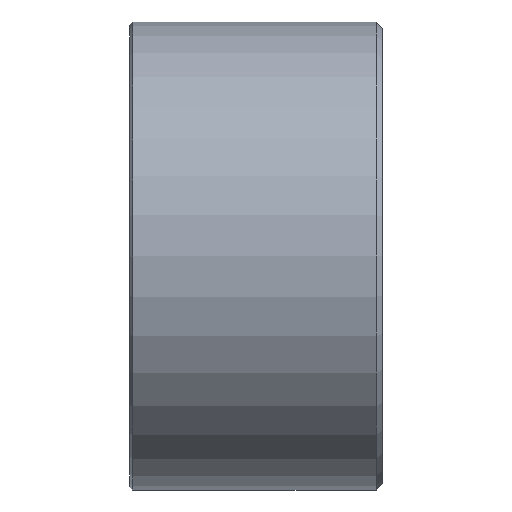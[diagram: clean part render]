
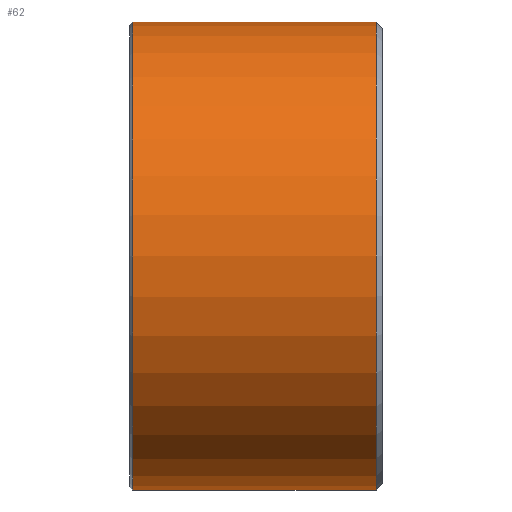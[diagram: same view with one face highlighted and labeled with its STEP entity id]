
A CAD part, front view. The second image highlights one B-rep face of the part: STEP entity #62.
In plain terms, the highlighted cylindrical face has radius 18.5 mm (diameter 37 mm), a partial arc.
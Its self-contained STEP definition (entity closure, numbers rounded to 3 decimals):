
#6 = ORIENTED_EDGE ( 'NONE', *, *, #79, .F. ) ;
#42 = VERTEX_POINT ( 'NONE', #170 ) ;
#62 = ADVANCED_FACE ( 'NONE', ( #398 ), #399, .T. ) ;
#79 = EDGE_CURVE ( 'NONE', #993, #923, #565, .T. ) ;
#89 = ORIENTED_EDGE ( 'NONE', *, *, #845, .T. ) ;
#97 = EDGE_CURVE ( 'NONE', #993, #638, #724, .T. ) ;
#142 = CARTESIAN_POINT ( 'NONE',  ( 0.25, 0., -18.5 ) ) ;
#170 = CARTESIAN_POINT ( 'NONE',  ( 0.25, 0., 18.5 ) ) ;
#208 = CARTESIAN_POINT ( 'NONE',  ( 19.5, 0., -18.5 ) ) ;
#233 = CIRCLE ( 'NONE', #234, 18.5 ) ;
#234 = AXIS2_PLACEMENT_3D ( 'NONE', #235, #236, #237 ) ;
#235 = CARTESIAN_POINT ( 'NONE',  ( 0.25, 0., 0. ) ) ;
#236 = DIRECTION ( 'NONE',  ( 1., 0., 0. ) ) ;
#237 = DIRECTION ( 'NONE',  ( 0., 0., -1. ) ) ;
#257 = ORIENTED_EDGE ( 'NONE', *, *, #97, .T. ) ;
#398 = FACE_OUTER_BOUND ( 'NONE', #904, .T. ) ;
#399 = CYLINDRICAL_SURFACE ( 'NONE', #400, 18.5 ) ;
#400 = AXIS2_PLACEMENT_3D ( 'NONE', #401, #402, #403 ) ;
#401 = CARTESIAN_POINT ( 'NONE',  ( 0., 0., 0. ) ) ;
#402 = DIRECTION ( 'NONE',  ( -1., 0., 0. ) ) ;
#403 = DIRECTION ( 'NONE',  ( 0., 0., 1. ) ) ;
#565 = LINE ( 'NONE', #566, #567 ) ;
#566 = CARTESIAN_POINT ( 'NONE',  ( 0., 0., -18.5 ) ) ;
#567 = VECTOR ( 'NONE', #568, 1000. ) ;
#568 = DIRECTION ( 'NONE',  ( -1., 0., 0. ) ) ;
#588 = LINE ( 'NONE', #589, #590 ) ;
#589 = CARTESIAN_POINT ( 'NONE',  ( 0., 0., 18.5 ) ) ;
#590 = VECTOR ( 'NONE', #591, 1000. ) ;
#591 = DIRECTION ( 'NONE',  ( -1., 0., 0. ) ) ;
#598 = EDGE_CURVE ( 'NONE', #638, #42, #588, .T. ) ;
#614 = CARTESIAN_POINT ( 'NONE',  ( 19.5, 0., 18.5 ) ) ;
#638 = VERTEX_POINT ( 'NONE', #614 ) ;
#724 = CIRCLE ( 'NONE', #725, 18.5 ) ;
#725 = AXIS2_PLACEMENT_3D ( 'NONE', #726, #727, #728 ) ;
#726 = CARTESIAN_POINT ( 'NONE',  ( 19.5, 0., 0. ) ) ;
#727 = DIRECTION ( 'NONE',  ( -1., 0., 0. ) ) ;
#728 = DIRECTION ( 'NONE',  ( 0., 0., 1. ) ) ;
#774 = ORIENTED_EDGE ( 'NONE', *, *, #598, .T. ) ;
#845 = EDGE_CURVE ( 'NONE', #42, #923, #233, .T. ) ;
#904 = EDGE_LOOP ( 'NONE', ( #6, #257, #774, #89 ) ) ;
#923 = VERTEX_POINT ( 'NONE', #142 ) ;
#993 = VERTEX_POINT ( 'NONE', #208 ) ;
